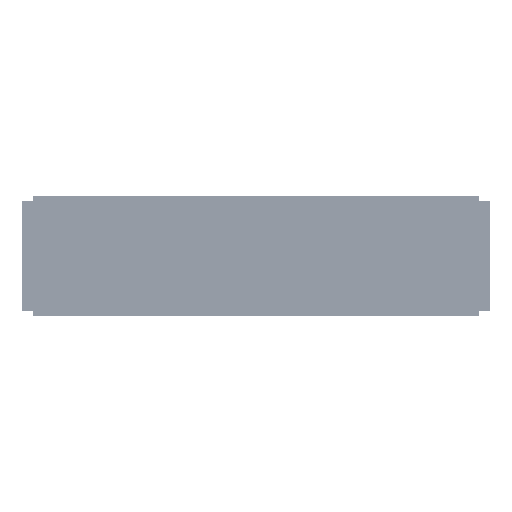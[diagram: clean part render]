
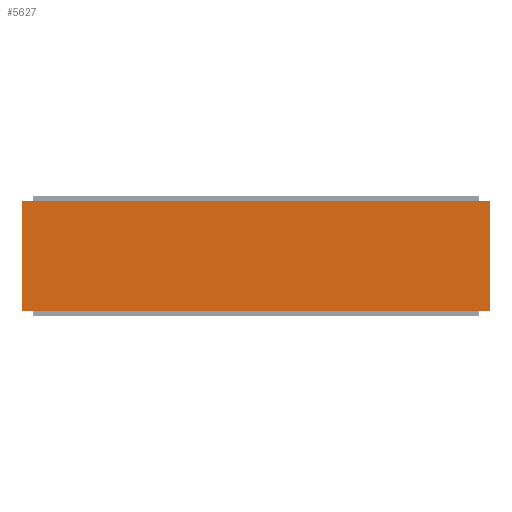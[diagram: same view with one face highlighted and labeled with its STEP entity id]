
A CAD part, left-side view. The second image highlights one B-rep face of the part: STEP entity #5627.
In plain terms, the highlighted planar face has unit normal (-1, 0, 0) as drawn and (0, 0, -1) by its records, which use the part's own axes.
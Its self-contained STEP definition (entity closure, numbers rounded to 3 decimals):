
#1466 = CARTESIAN_POINT ( 'NONE',  ( 233.49, -998.5, 0. ) ) ;
#5627 = ADVANCED_FACE ( 'NONE', ( #133275 ), #37604, .F. ) ;
#6921 = LINE ( 'NONE', #20023, #33000 ) ;
#9198 = DIRECTION ( 'NONE',  ( -1., 0., 0. ) ) ;
#9651 = CARTESIAN_POINT ( 'NONE',  ( 233.49, 998.5, 0. ) ) ;
#14438 = DIRECTION ( 'NONE',  ( 1., 0., 0. ) ) ;
#18008 = CARTESIAN_POINT ( 'NONE',  ( -233.49, 998.5, 0. ) ) ;
#18453 = LINE ( 'NONE', #50158, #40440 ) ;
#19328 = EDGE_CURVE ( 'NONE', #144323, #107358, #18453, .T. ) ;
#20023 = CARTESIAN_POINT ( 'NONE',  ( -233.49, 998.5, 0. ) ) ;
#26984 = ORIENTED_EDGE ( 'NONE', *, *, #61840, .F. ) ;
#32228 = CARTESIAN_POINT ( 'NONE',  ( 233.49, 998.5, 0. ) ) ;
#33000 = VECTOR ( 'NONE', #9198, 1000. ) ;
#37604 = PLANE ( 'NONE',  #92788 ) ;
#39347 = DIRECTION ( 'NONE',  ( 1., 0., 0. ) ) ;
#39830 = VECTOR ( 'NONE', #41333, 1000. ) ;
#40440 = VECTOR ( 'NONE', #39347, 1000. ) ;
#41296 = CARTESIAN_POINT ( 'NONE',  ( -233.49, -998.5, 0. ) ) ;
#41333 = DIRECTION ( 'NONE',  ( 0., -1., 0. ) ) ;
#41549 = VECTOR ( 'NONE', #90141, 1000. ) ;
#50158 = CARTESIAN_POINT ( 'NONE',  ( -233.49, -998.5, 0. ) ) ;
#53891 = LINE ( 'NONE', #32228, #41549 ) ;
#55951 = CARTESIAN_POINT ( 'NONE',  ( -233.49, 998.5, 0. ) ) ;
#61840 = EDGE_CURVE ( 'NONE', #107358, #128508, #53891, .T. ) ;
#81026 = EDGE_CURVE ( 'NONE', #135184, #144323, #100754, .T. ) ;
#85607 = ORIENTED_EDGE ( 'NONE', *, *, #81026, .F. ) ;
#85820 = ORIENTED_EDGE ( 'NONE', *, *, #143555, .F. ) ;
#87696 = DIRECTION ( 'NONE',  ( 0., 0., 1. ) ) ;
#90141 = DIRECTION ( 'NONE',  ( 0., 1., 0. ) ) ;
#92788 = AXIS2_PLACEMENT_3D ( 'NONE', #146361, #87696, #14438 ) ;
#100754 = LINE ( 'NONE', #55951, #39830 ) ;
#103934 = EDGE_LOOP ( 'NONE', ( #85607, #85820, #26984, #131803 ) ) ;
#107358 = VERTEX_POINT ( 'NONE', #1466 ) ;
#128508 = VERTEX_POINT ( 'NONE', #9651 ) ;
#131803 = ORIENTED_EDGE ( 'NONE', *, *, #19328, .F. ) ;
#133275 = FACE_OUTER_BOUND ( 'NONE', #103934, .T. ) ;
#135184 = VERTEX_POINT ( 'NONE', #18008 ) ;
#143555 = EDGE_CURVE ( 'NONE', #128508, #135184, #6921, .T. ) ;
#144323 = VERTEX_POINT ( 'NONE', #41296 ) ;
#146361 = CARTESIAN_POINT ( 'NONE',  ( -233.49, -998.5, 0. ) ) ;
